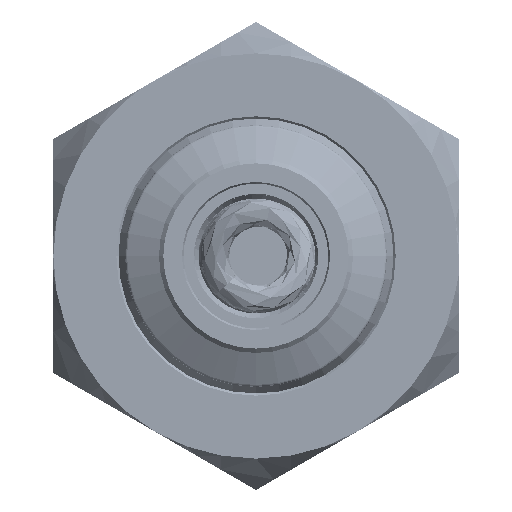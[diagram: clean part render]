
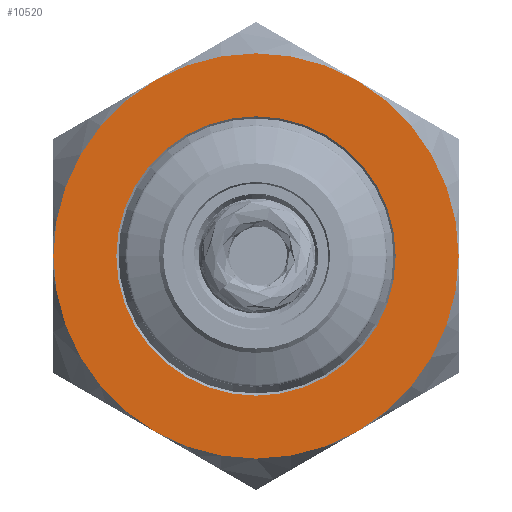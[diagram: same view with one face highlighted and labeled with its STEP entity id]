
A CAD part, left-side view. The second image highlights one B-rep face of the part: STEP entity #10520.
In plain terms, the highlighted planar face has unit normal (-1, 0, 0) as drawn and (0, 0, 1) by its records, which use the part's own axes.
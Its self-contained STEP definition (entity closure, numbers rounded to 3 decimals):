
#1534=FACE_BOUND('',#2230,.T.);
#1581=PLANE('',#11381);
#1869=FACE_OUTER_BOUND('',#2229,.T.);
#2229=EDGE_LOOP('',(#7112,#7113,#7114,#7115,#7116,#7117));
#2230=EDGE_LOOP('',(#7118));
#2881=CIRCLE('',#11380,9.65);
#2882=CIRCLE('',#11382,14.);
#2883=CIRCLE('',#11383,14.);
#2884=CIRCLE('',#11384,14.);
#2885=CIRCLE('',#11385,14.);
#2886=CIRCLE('',#11386,14.);
#2887=CIRCLE('',#11387,14.);
#3433=VERTEX_POINT('',#14409);
#3434=VERTEX_POINT('',#14413);
#3435=VERTEX_POINT('',#14414);
#3436=VERTEX_POINT('',#14416);
#3437=VERTEX_POINT('',#14418);
#3438=VERTEX_POINT('',#14420);
#3439=VERTEX_POINT('',#14422);
#5089=EDGE_CURVE('',#3433,#3433,#2881,.T.);
#5091=EDGE_CURVE('',#3434,#3435,#2882,.T.);
#5092=EDGE_CURVE('',#3435,#3436,#2883,.T.);
#5093=EDGE_CURVE('',#3436,#3437,#2884,.T.);
#5094=EDGE_CURVE('',#3437,#3438,#2885,.T.);
#5095=EDGE_CURVE('',#3438,#3439,#2886,.T.);
#5096=EDGE_CURVE('',#3439,#3434,#2887,.T.);
#7112=ORIENTED_EDGE('',*,*,#5091,.T.);
#7113=ORIENTED_EDGE('',*,*,#5092,.T.);
#7114=ORIENTED_EDGE('',*,*,#5093,.T.);
#7115=ORIENTED_EDGE('',*,*,#5094,.T.);
#7116=ORIENTED_EDGE('',*,*,#5095,.T.);
#7117=ORIENTED_EDGE('',*,*,#5096,.T.);
#7118=ORIENTED_EDGE('',*,*,#5089,.F.);
#10520=ADVANCED_FACE('',(#1869,#1534),#1581,.T.);
#11380=AXIS2_PLACEMENT_3D('',#14410,#12568,#12569);
#11381=AXIS2_PLACEMENT_3D('',#14412,#12571,#12572);
#11382=AXIS2_PLACEMENT_3D('',#14415,#12573,#12574);
#11383=AXIS2_PLACEMENT_3D('',#14417,#12575,#12576);
#11384=AXIS2_PLACEMENT_3D('',#14419,#12577,#12578);
#11385=AXIS2_PLACEMENT_3D('',#14421,#12579,#12580);
#11386=AXIS2_PLACEMENT_3D('',#14423,#12581,#12582);
#11387=AXIS2_PLACEMENT_3D('',#14424,#12583,#12584);
#12568=DIRECTION('center_axis',(0.,0.,1.));
#12569=DIRECTION('ref_axis',(0.,-1.,0.));
#12571=DIRECTION('center_axis',(0.,0.,1.));
#12572=DIRECTION('ref_axis',(1.,0.,0.));
#12573=DIRECTION('center_axis',(0.,0.,1.));
#12574=DIRECTION('ref_axis',(0.,-1.,0.));
#12575=DIRECTION('center_axis',(0.,0.,1.));
#12576=DIRECTION('ref_axis',(0.,-1.,0.));
#12577=DIRECTION('center_axis',(0.,0.,1.));
#12578=DIRECTION('ref_axis',(0.,-1.,0.));
#12579=DIRECTION('center_axis',(0.,0.,1.));
#12580=DIRECTION('ref_axis',(0.,-1.,0.));
#12581=DIRECTION('center_axis',(0.,0.,1.));
#12582=DIRECTION('ref_axis',(0.,-1.,0.));
#12583=DIRECTION('center_axis',(0.,0.,1.));
#12584=DIRECTION('ref_axis',(0.,-1.,0.));
#14409=CARTESIAN_POINT('',(0.,9.65,27.));
#14410=CARTESIAN_POINT('Origin',(0.,0.,27.));
#14412=CARTESIAN_POINT('Origin',(0.,0.,
27.));
#14413=CARTESIAN_POINT('',(12.124,7.,27.));
#14414=CARTESIAN_POINT('',(0.,14.,27.));
#14415=CARTESIAN_POINT('Origin',(0.,0.,27.));
#14416=CARTESIAN_POINT('',(-12.124,7.,27.));
#14417=CARTESIAN_POINT('Origin',(0.,0.,27.));
#14418=CARTESIAN_POINT('',(-12.124,-7.,27.));
#14419=CARTESIAN_POINT('Origin',(0.,0.,27.));
#14420=CARTESIAN_POINT('',(0.,-14.,27.));
#14421=CARTESIAN_POINT('Origin',(0.,0.,27.));
#14422=CARTESIAN_POINT('',(12.124,-7.,27.));
#14423=CARTESIAN_POINT('Origin',(0.,0.,27.));
#14424=CARTESIAN_POINT('Origin',(0.,0.,27.));
